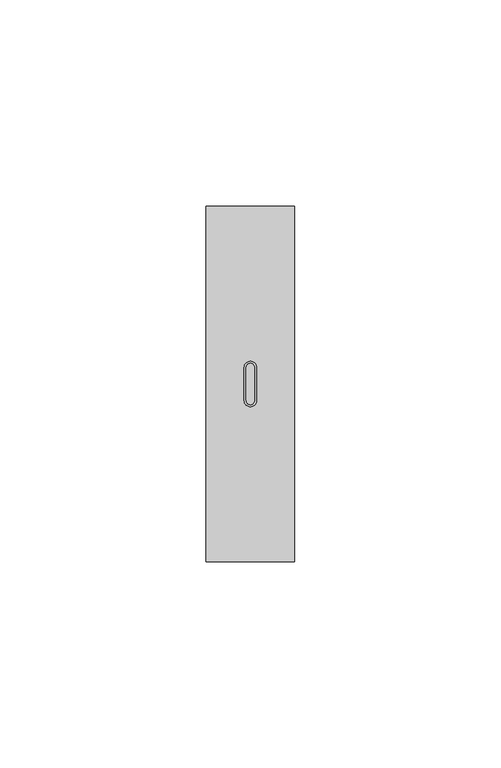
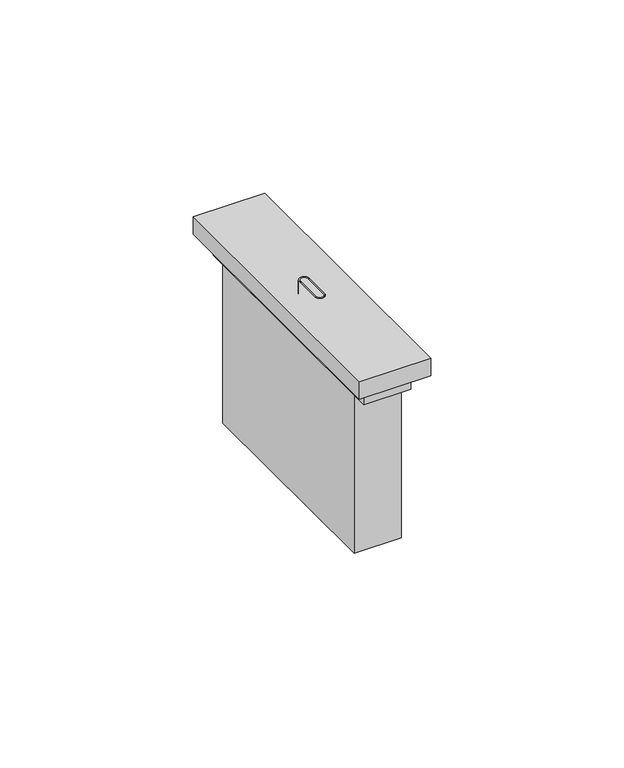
"""IFC4 building model written with IfcOpenShell, lengths in millimetres: proxy geometry, BT_LN-USB_A-K4286C1 : Presa USB-C - Art. K4286C1 - 1M - Cover Nero."""

from ifc_helpers import new_model, si_unit, point, frame, frame_2d, origin, origin_with_axes, place, context, project, spatial, polyline, circle_curve, trimmed, segment, composite_curve, outline, extrude, source, transform, mapped, element, save


def electrical_fixtures_4785ec01(model_context):
    return source(origin(), model_context, "Body", "SweptSolid", [
        extrude(outline(polyline([(-7.0, 39.0), (7.0, 39.0), (7.0, -39.0), (-7.0, -39.0), (-7.0, 39.0)])), frame((0.0, 0.0, 50.0), z_axis=(0.0, 0.0, 1.0), x_axis=(1.0, 0.0, 0.0)), (0.0, 0.0, 1.0), 5.5),
        extrude(outline(polyline([(-7.0, 34.0), (7.0, 34.0), (7.0, -34.0), (-7.0, -34.0), (-7.0, 34.0)])), origin_with_axes(), (0.0, 0.0, 1.0), 50.0),
        extrude(outline(composite_curve([segment(polyline([(-0.9999455, -4.0), (-0.9999455, 4.0068027)]), True, "CONTINUOUS"), segment(trimmed(circle_curve(frame_2d((0.0, 3.9953068)), 1.0000116), [point((-0.9999455, 4.0068027))], [point((0.9999455, 3.9838109))], False, "CARTESIAN"), True, "CONTINUOUS"), segment(polyline([(0.9999455, 3.9838109), (0.9999455, -4.0)]), True, "CONTINUOUS"), segment(trimmed(circle_curve(frame_2d((0.0, -4.0)), 0.9999455), [point((0.9999455, -4.0))], [point((-0.9999455, -4.0))], False, "CARTESIAN"), True, "CONTINUOUS")], self_intersect=False)), frame((0.0, 0.0, 55.5), z_axis=(0.0, 0.0, 1.0), x_axis=(1.0, 0.0, 0.0)), (0.0, 0.0, 1.0), 5.5),
        extrude(outline(polyline([(-10.7, -43.0), (-10.7, 43.0), (10.7, 43.0), (10.7, -43.0), (-10.7, -43.0)]), holes=[composite_curve([segment(polyline([(-1.4999455, 4.0093864), (-1.4999455, -4.0)]), True, "CONTINUOUS"), segment(trimmed(circle_curve(frame_2d((0.0, -4.0)), 1.4999455), [point((-1.4999455, -4.0))], [point((1.4999455, -4.0))], True, "CARTESIAN"), True, "CONTINUOUS"), segment(polyline([(1.4999455, -4.0), (1.4999455, 3.9812272)]), True, "CONTINUOUS"), segment(trimmed(circle_curve(frame_2d((0.0, 3.9953068)), 1.5000116), [point((1.4999455, 3.9812272))], [point((-1.4999455, 4.0093864))], True, "CARTESIAN"), True, "CONTINUOUS")], self_intersect=False)]), frame((0.0, 0.0, 55.5), z_axis=(0.0, 0.0, 1.0), x_axis=(1.0, 0.0, 0.0)), (0.0, 0.0, 1.0), 5.5),
    ])


if __name__ == "__main__":
    model = new_model("IFC4")
    model_context = context("Model", 3, world=origin())
    ifc_project = project(units=[si_unit("LENGTHUNIT", "METRE", prefix="MILLI")], contexts=[model_context])
    site = spatial("IfcSite", under=ifc_project)
    building = spatial("IfcBuilding", under=site)
    placement = place(None, origin())
    electrical_fixtures_shape = electrical_fixtures_4785ec01(model_context)
    element("IfcBuildingElementProxy", 1, Name="BT_LN-USB_A-K4286C1 : Presa USB-C - Art. K4286C1 - 1M - Cover Nero", ObjectType="BT_LN-USB_A-K4286C1 : Presa USB-C - Art. K4286C1 - 1M - Cover Nero", at=placement, inside=building, context=model_context, shape_type="MappedRepresentation", body=[
        mapped(electrical_fixtures_shape, transform((0.0, 0.0, 0.0), x_axis=(1.0, 0.0, 0.0), y_axis=(0.0, 1.0, 0.0), z_axis=(0.0, 0.0, 1.0))),
    ])
    save(model, "model.ifc")
